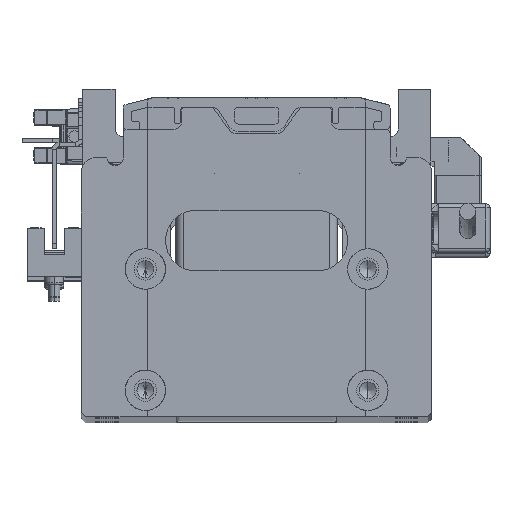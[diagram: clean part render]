
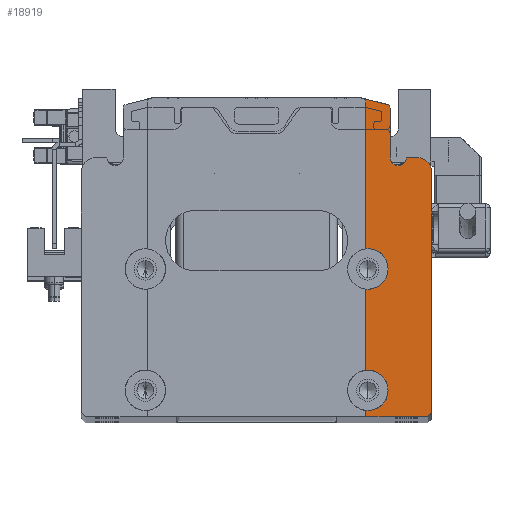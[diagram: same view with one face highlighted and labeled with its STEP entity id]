
A CAD part, top view. The second image highlights one B-rep face of the part: STEP entity #18919.
In plain terms, the highlighted planar face has unit normal (0, 0, 1).
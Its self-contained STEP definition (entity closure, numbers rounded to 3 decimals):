
#713 = VECTOR ( 'NONE', #43349, 1000. ) ;
#718 = VECTOR ( 'NONE', #4617, 1000. ) ;
#834 = EDGE_CURVE ( 'NONE', #19768, #44735, #13426, .T. ) ;
#849 = DIRECTION ( 'NONE',  ( 0., -1., 0. ) ) ;
#880 = FACE_OUTER_BOUND ( 'NONE', #44974, .T. ) ;
#1556 = CIRCLE ( 'NONE', #28101, 5. ) ;
#1573 = ORIENTED_EDGE ( 'NONE', *, *, #43508, .T. ) ;
#2134 = DIRECTION ( 'NONE',  ( 0., -1., 0. ) ) ;
#2250 = CARTESIAN_POINT ( 'NONE',  ( 0., 0., 12.5 ) ) ;
#2629 = EDGE_CURVE ( 'NONE', #44735, #6991, #5661, .T. ) ;
#3249 = CARTESIAN_POINT ( 'NONE',  ( 35., 24.5, 12.5 ) ) ;
#3702 = VECTOR ( 'NONE', #849, 1000. ) ;
#4129 = EDGE_CURVE ( 'NONE', #48501, #18214, #33658, .T. ) ;
#4137 = CARTESIAN_POINT ( 'NONE',  ( 39.8, 24.5, 12.5 ) ) ;
#4617 = DIRECTION ( 'NONE',  ( 1., 0., 0. ) ) ;
#5177 = VERTEX_POINT ( 'NONE', #49869 ) ;
#5235 = EDGE_CURVE ( 'NONE', #35361, #31867, #17778, .T. ) ;
#5291 = DIRECTION ( 'NONE',  ( 0.707, 0.707, 0. ) ) ;
#5661 = CIRCLE ( 'NONE', #18386, 5. ) ;
#5779 = DIRECTION ( 'NONE',  ( 0., 0., -1. ) ) ;
#5974 = VERTEX_POINT ( 'NONE', #40634 ) ;
#6008 = CARTESIAN_POINT ( 'NONE',  ( 43.3, -38.5, 12.5 ) ) ;
#6511 = EDGE_CURVE ( 'NONE', #32546, #35361, #52173, .T. ) ;
#6784 = CIRCLE ( 'NONE', #15433, 1. ) ;
#6991 = VERTEX_POINT ( 'NONE', #28170 ) ;
#7683 = CARTESIAN_POINT ( 'NONE',  ( 27., -39.5, 12.5 ) ) ;
#8309 = VERTEX_POINT ( 'NONE', #38407 ) ;
#8417 = CARTESIAN_POINT ( 'NONE',  ( 27.5, -33., 12.5 ) ) ;
#8887 = EDGE_CURVE ( 'NONE', #47179, #19768, #6784, .T. ) ;
#9618 = AXIS2_PLACEMENT_3D ( 'NONE', #10135, #35006, #51477 ) ;
#9932 = CIRCLE ( 'NONE', #9618, 5. ) ;
#10135 = CARTESIAN_POINT ( 'NONE',  ( 27.5, -3., 12.5 ) ) ;
#10282 = DIRECTION ( 'NONE',  ( 0., 0., -1. ) ) ;
#10335 = CARTESIAN_POINT ( 'NONE',  ( 27., 39.5, 12.5 ) ) ;
#10464 = DIRECTION ( 'NONE',  ( 0., 0., 1. ) ) ;
#10605 = ORIENTED_EDGE ( 'NONE', *, *, #6511, .T. ) ;
#10911 = ORIENTED_EDGE ( 'NONE', *, *, #2629, .T. ) ;
#12331 = CARTESIAN_POINT ( 'NONE',  ( 32., 36.719, 12.5 ) ) ;
#12403 = VECTOR ( 'NONE', #49634, 1000. ) ;
#12520 = DIRECTION ( 'NONE',  ( -1., 0., 0. ) ) ;
#12573 = CARTESIAN_POINT ( 'NONE',  ( 27.5, -33., 12.5 ) ) ;
#12947 = DIRECTION ( 'NONE',  ( 0., 0., -1. ) ) ;
#13104 = CARTESIAN_POINT ( 'NONE',  ( 26., 38.219, 12.5 ) ) ;
#13426 = LINE ( 'NONE', #43904, #3702 ) ;
#13683 = LINE ( 'NONE', #43738, #713 ) ;
#13768 = CARTESIAN_POINT ( 'NONE',  ( 37., 24.5, 12.5 ) ) ;
#13885 = EDGE_CURVE ( 'NONE', #14586, #22161, #15666, .T. ) ;
#14439 = DIRECTION ( 'NONE',  ( -1., 0., 0. ) ) ;
#14586 = VERTEX_POINT ( 'NONE', #28662 ) ;
#14799 = VERTEX_POINT ( 'NONE', #13768 ) ;
#15072 = ORIENTED_EDGE ( 'NONE', *, *, #44079, .T. ) ;
#15433 = AXIS2_PLACEMENT_3D ( 'NONE', #13104, #34351, #25411 ) ;
#15596 = DIRECTION ( 'NONE',  ( 0., 0., -1. ) ) ;
#15666 = CIRCLE ( 'NONE', #28256, 3.5 ) ;
#16924 = ORIENTED_EDGE ( 'NONE', *, *, #13885, .T. ) ;
#17778 = LINE ( 'NONE', #6008, #52911 ) ;
#18178 = ORIENTED_EDGE ( 'NONE', *, *, #34770, .T. ) ;
#18214 = VERTEX_POINT ( 'NONE', #28124 ) ;
#18386 = AXIS2_PLACEMENT_3D ( 'NONE', #51461, #5779, #30977 ) ;
#18919 = ADVANCED_FACE ( 'NONE', ( #880 ), #44186, .F. ) ;
#19268 = AXIS2_PLACEMENT_3D ( 'NONE', #12573, #12947, #38158 ) ;
#19284 = AXIS2_PLACEMENT_3D ( 'NONE', #3249, #15596, #45151 ) ;
#19446 = ORIENTED_EDGE ( 'NONE', *, *, #27416, .T. ) ;
#19768 = VERTEX_POINT ( 'NONE', #24224 ) ;
#19947 = LINE ( 'NONE', #53362, #51845 ) ;
#20117 = ORIENTED_EDGE ( 'NONE', *, *, #24865, .T. ) ;
#20336 = EDGE_CURVE ( 'NONE', #39680, #44048, #19947, .T. ) ;
#20431 = CARTESIAN_POINT ( 'NONE',  ( 33., 36.719, 12.5 ) ) ;
#20584 = DIRECTION ( 'NONE',  ( -1., 0., 0. ) ) ;
#20908 = LINE ( 'NONE', #21095, #52789 ) ;
#21095 = CARTESIAN_POINT ( 'NONE',  ( 33., 0., 12.5 ) ) ;
#22161 = VERTEX_POINT ( 'NONE', #4137 ) ;
#23038 = CARTESIAN_POINT ( 'NONE',  ( 27., -28.025, 12.5 ) ) ;
#23128 = LINE ( 'NONE', #10335, #36236 ) ;
#23960 = CIRCLE ( 'NONE', #19268, 5. ) ;
#23991 = CARTESIAN_POINT ( 'NONE',  ( 43.3, -38.5, 12.5 ) ) ;
#24224 = CARTESIAN_POINT ( 'NONE',  ( 27., 38.219, 12.5 ) ) ;
#24533 = ORIENTED_EDGE ( 'NONE', *, *, #5235, .T. ) ;
#24865 = EDGE_CURVE ( 'NONE', #14799, #5974, #45227, .T. ) ;
#25411 = DIRECTION ( 'NONE',  ( -1., 0., 0. ) ) ;
#26020 = ORIENTED_EDGE ( 'NONE', *, *, #38796, .T. ) ;
#26860 = LINE ( 'NONE', #37690, #12403 ) ;
#27416 = EDGE_CURVE ( 'NONE', #44048, #5177, #1556, .T. ) ;
#27445 = CARTESIAN_POINT ( 'NONE',  ( 10.765, 43.059, 12.5 ) ) ;
#28101 = AXIS2_PLACEMENT_3D ( 'NONE', #8417, #37595, #12520 ) ;
#28124 = CARTESIAN_POINT ( 'NONE',  ( 32.243, 37.689, 12.5 ) ) ;
#28170 = CARTESIAN_POINT ( 'NONE',  ( 32.5, -3., 12.5 ) ) ;
#28256 = AXIS2_PLACEMENT_3D ( 'NONE', #35886, #10464, #43502 ) ;
#28662 = CARTESIAN_POINT ( 'NONE',  ( 43.3, 21., 12.5 ) ) ;
#30179 = ORIENTED_EDGE ( 'NONE', *, *, #20336, .T. ) ;
#30977 = DIRECTION ( 'NONE',  ( -1., 0., 0. ) ) ;
#31346 = ORIENTED_EDGE ( 'NONE', *, *, #834, .T. ) ;
#31658 = DIRECTION ( 'NONE',  ( -0.97, 0.243, 0. ) ) ;
#31867 = VERTEX_POINT ( 'NONE', #23991 ) ;
#32240 = ORIENTED_EDGE ( 'NONE', *, *, #53564, .T. ) ;
#32546 = VERTEX_POINT ( 'NONE', #7683 ) ;
#33147 = ORIENTED_EDGE ( 'NONE', *, *, #39795, .T. ) ;
#33176 = AXIS2_PLACEMENT_3D ( 'NONE', #12331, #45596, #20584 ) ;
#33242 = DIRECTION ( 'NONE',  ( 0., -1., 0. ) ) ;
#33658 = CIRCLE ( 'NONE', #33176, 1. ) ;
#34351 = DIRECTION ( 'NONE',  ( 0., 0., -1. ) ) ;
#34770 = EDGE_CURVE ( 'NONE', #22161, #14799, #26860, .T. ) ;
#34940 = VECTOR ( 'NONE', #31658, 1000. ) ;
#35006 = DIRECTION ( 'NONE',  ( 0., 0., -1. ) ) ;
#35361 = VERTEX_POINT ( 'NONE', #36580 ) ;
#35886 = CARTESIAN_POINT ( 'NONE',  ( 39.8, 21., 12.5 ) ) ;
#36236 = VECTOR ( 'NONE', #2134, 1000. ) ;
#36580 = CARTESIAN_POINT ( 'NONE',  ( 42.3, -39.5, 12.5 ) ) ;
#37344 = CARTESIAN_POINT ( 'NONE',  ( 27., -7.975, 12.5 ) ) ;
#37595 = DIRECTION ( 'NONE',  ( 0., 0., -1. ) ) ;
#37690 = CARTESIAN_POINT ( 'NONE',  ( 0., 24.5, 12.5 ) ) ;
#38158 = DIRECTION ( 'NONE',  ( -1., 0., 0. ) ) ;
#38407 = CARTESIAN_POINT ( 'NONE',  ( 27., -37.975, 12.5 ) ) ;
#38796 = EDGE_CURVE ( 'NONE', #5177, #8309, #23960, .T. ) ;
#39680 = VERTEX_POINT ( 'NONE', #37344 ) ;
#39691 = AXIS2_PLACEMENT_3D ( 'NONE', #2250, #10282, #14439 ) ;
#39795 = EDGE_CURVE ( 'NONE', #8309, #32546, #23128, .T. ) ;
#39818 = CARTESIAN_POINT ( 'NONE',  ( 27., 1.975, 12.5 ) ) ;
#40462 = ORIENTED_EDGE ( 'NONE', *, *, #4129, .T. ) ;
#40634 = CARTESIAN_POINT ( 'NONE',  ( 33., 24.5, 12.5 ) ) ;
#42473 = EDGE_CURVE ( 'NONE', #6991, #39680, #9932, .T. ) ;
#42842 = CARTESIAN_POINT ( 'NONE',  ( 26.243, 39.189, 12.5 ) ) ;
#43349 = DIRECTION ( 'NONE',  ( 0., 1., 0. ) ) ;
#43502 = DIRECTION ( 'NONE',  ( -1., 0., 0. ) ) ;
#43508 = EDGE_CURVE ( 'NONE', #5974, #48501, #20908, .T. ) ;
#43738 = CARTESIAN_POINT ( 'NONE',  ( 43.3, 39.5, 12.5 ) ) ;
#43904 = CARTESIAN_POINT ( 'NONE',  ( 27., 39.5, 12.5 ) ) ;
#44048 = VERTEX_POINT ( 'NONE', #23038 ) ;
#44079 = EDGE_CURVE ( 'NONE', #18214, #47179, #52095, .T. ) ;
#44186 = PLANE ( 'NONE',  #39691 ) ;
#44735 = VERTEX_POINT ( 'NONE', #39818 ) ;
#44974 = EDGE_LOOP ( 'NONE', ( #1573, #40462, #15072, #52743, #31346, #10911, #50427, #30179, #19446, #26020, #33147, #10605, #24533, #32240, #16924, #18178, #20117 ) ) ;
#45151 = DIRECTION ( 'NONE',  ( -1., 0., 0. ) ) ;
#45227 = CIRCLE ( 'NONE', #19284, 2. ) ;
#45596 = DIRECTION ( 'NONE',  ( 0., 0., 1. ) ) ;
#46200 = CARTESIAN_POINT ( 'NONE',  ( 43.3, -39.5, 12.5 ) ) ;
#46289 = DIRECTION ( 'NONE',  ( 0., 1., 0. ) ) ;
#47179 = VERTEX_POINT ( 'NONE', #42842 ) ;
#48501 = VERTEX_POINT ( 'NONE', #20431 ) ;
#49634 = DIRECTION ( 'NONE',  ( -1., 0., 0. ) ) ;
#49869 = CARTESIAN_POINT ( 'NONE',  ( 32.5, -33., 12.5 ) ) ;
#50427 = ORIENTED_EDGE ( 'NONE', *, *, #42473, .T. ) ;
#51461 = CARTESIAN_POINT ( 'NONE',  ( 27.5, -3., 12.5 ) ) ;
#51477 = DIRECTION ( 'NONE',  ( -1., 0., 0. ) ) ;
#51845 = VECTOR ( 'NONE', #33242, 1000. ) ;
#52095 = LINE ( 'NONE', #27445, #34940 ) ;
#52173 = LINE ( 'NONE', #46200, #718 ) ;
#52743 = ORIENTED_EDGE ( 'NONE', *, *, #8887, .T. ) ;
#52789 = VECTOR ( 'NONE', #46289, 1000. ) ;
#52911 = VECTOR ( 'NONE', #5291, 1000. ) ;
#53362 = CARTESIAN_POINT ( 'NONE',  ( 27., 39.5, 12.5 ) ) ;
#53564 = EDGE_CURVE ( 'NONE', #31867, #14586, #13683, .T. ) ;
